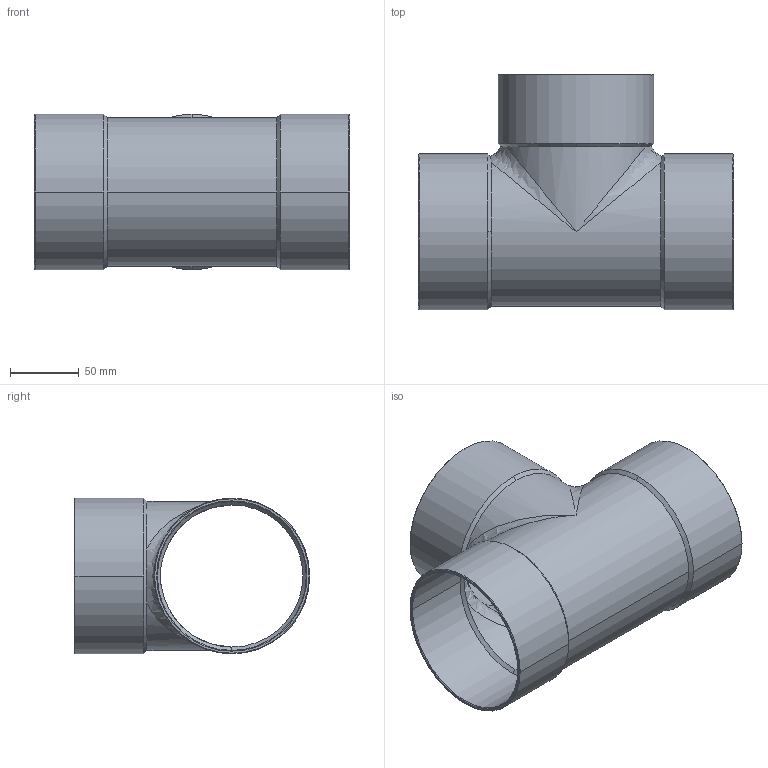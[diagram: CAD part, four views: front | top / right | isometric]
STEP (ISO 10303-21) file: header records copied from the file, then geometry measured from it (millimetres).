
FILE_DESCRIPTION((''),'2;1');
FILE_NAME('P:\Bouwmaten\z-maattekeningen 3D\5000\5130\d\5130108.stp','2005-10-19T08:52:53',('Kris'),(''),'Autodesk Inventor 8','Autodesk Inventor 8','');
FILE_SCHEMA(('AUTOMOTIVE_DESIGN { 1 0 10303 214 1 1 1 1 }'));
Length unit declared in the file: millimetre
Products named in the file (1): 5130108
Bounding box: 228.5 x 170.75 x 113 mm (x, y, z)
Volume: 235049.5 mm3; surface area: 190225.9 mm2
Topology: 1 solids, 1 shells, 51 faces, 142 edges, 84 vertices
Faces by surface type: cone 24, cylinder 20, bspline 4, plane 3
Entity records: 2215 total; most frequent: CARTESIAN_POINT 874, DIRECTION 310, ORIENTED_EDGE 268, AXIS2_PLACEMENT_3D 136, EDGE_CURVE 134, VERTEX_POINT 84, CIRCLE 72, EDGE_LOOP 54
